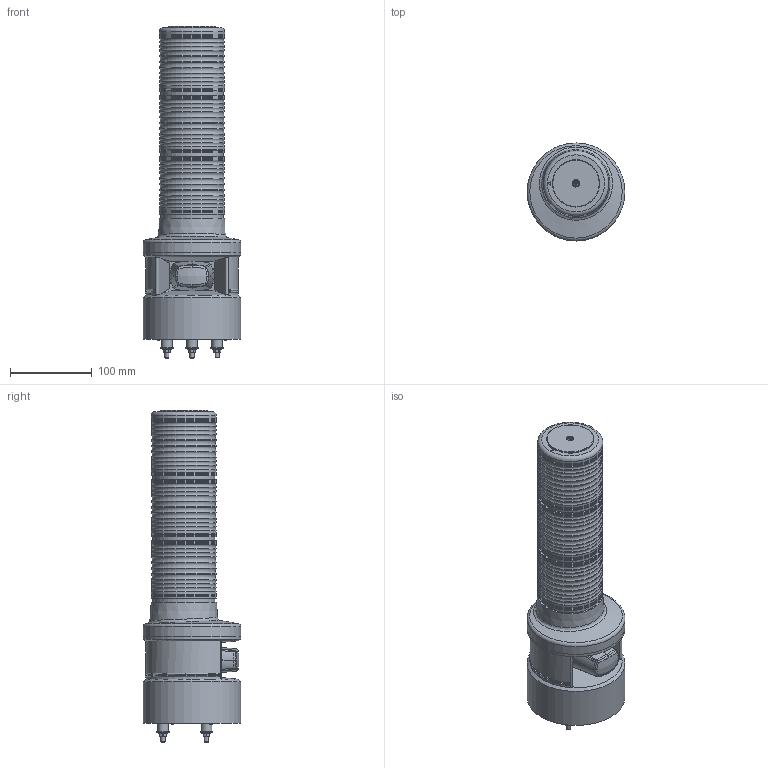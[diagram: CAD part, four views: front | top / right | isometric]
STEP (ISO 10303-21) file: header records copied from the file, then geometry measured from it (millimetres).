
FILE_DESCRIPTION(('STEP AP214'), '1');
FILE_NAME('TLF100B-RGB', '', ('UNSPECIFIED'), ('UNSPECIFIED'), 'C3D Converter', 'C3D Toolkit', '');
FILE_SCHEMA(('AUTOMOTIVE_DESIGN { 1 0 10303 214 3 1 1}'));
Length unit declared in the file: millimetre
Assembly tree (29 placements, depth 2):
  (unnamed)
    (unnamed)
    (unnamed)
    (unnamed)
    (unnamed)
    (unnamed)
    (unnamed)
    (unnamed)
    (unnamed)  x3
    (unnamed)  x3
    (unnamed)  x3
    (unnamed)  x3
    (unnamed)  x3
    (unnamed)  x2
    (unnamed)  x4
    (unnamed)
Bounding box: 120 x 120 x 406.95 mm (x, y, z)
Volume: 1535739.9 mm3; surface area: 266635.5 mm2
Topology: 29 solids, 31 shells, 681 faces, 1559 edges, 960 vertices
Faces by surface type: plane 287, cylinder 140, torus 87, cone 86, bspline 72, sphere 9
Full cylindrical faces by diameter (mm): 2.5 x2, 3 x6, 3.3 x2, 4 x1, 4.5 x2, 4.917 x6, 5 x16, 5.5 x4, 7 x1, 8 x1, 8.9 x3, 11 x3, 12 x1, 13.1 x3, 15.7 x3, 58 x1, 72 x3, 76 x6, 80 x25, 120 x3
Entity records: 24277 total; most frequent: CARTESIAN_POINT 12026, DIRECTION 1668, ORIENTED_EDGE 1558, EDGE_CURVE 787, AXIS2_PLACEMENT_3D 734, EDGE_LOOP 647, VERTEX_POINT 577, ADVANCED_FACE 435
